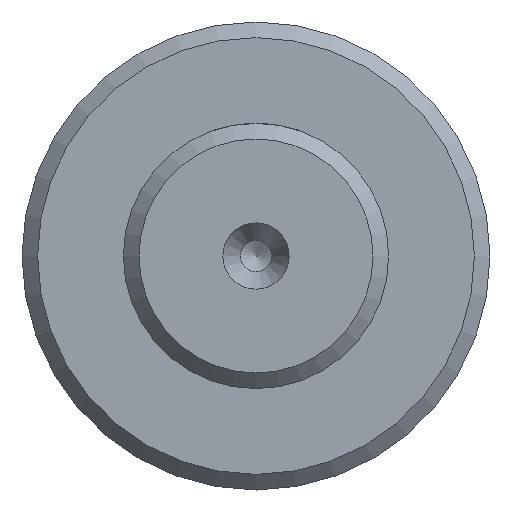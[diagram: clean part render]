
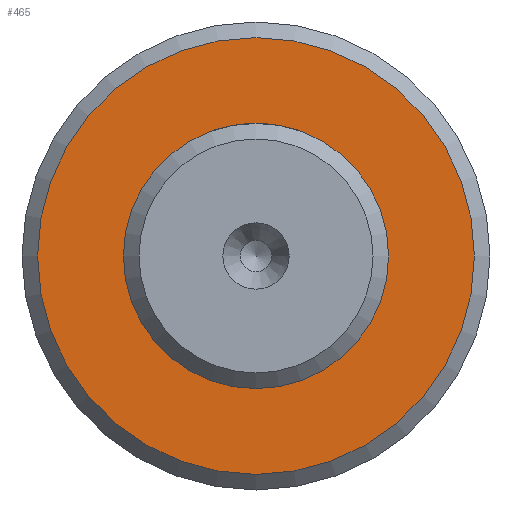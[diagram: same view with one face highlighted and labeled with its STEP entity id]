
A CAD part, left-side view. The second image highlights one B-rep face of the part: STEP entity #465.
In plain terms, the highlighted planar face has unit normal (-1, 0, 0).
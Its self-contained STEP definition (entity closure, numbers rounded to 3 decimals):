
#17=FACE_BOUND('',#91,.T.);
#40=PLANE('',#532);
#60=FACE_OUTER_BOUND('',#90,.T.);
#90=EDGE_LOOP('',(#397));
#91=EDGE_LOOP('',(#398));
#118=CIRCLE('',#531,14.);
#119=CIRCLE('',#533,8.5);
#229=VERTEX_POINT('',#869);
#230=VERTEX_POINT('',#873);
#288=EDGE_CURVE('',#229,#229,#118,.T.);
#290=EDGE_CURVE('',#230,#230,#119,.T.);
#397=ORIENTED_EDGE('',*,*,#288,.F.);
#398=ORIENTED_EDGE('',*,*,#290,.F.);
#465=ADVANCED_FACE('',(#60,#17),#40,.T.);
#531=AXIS2_PLACEMENT_3D('',#870,#639,#640);
#532=AXIS2_PLACEMENT_3D('',#872,#642,#643);
#533=AXIS2_PLACEMENT_3D('',#874,#644,#645);
#639=DIRECTION('center_axis',(1.,0.,0.));
#640=DIRECTION('ref_axis',(0.,1.,0.));
#642=DIRECTION('center_axis',(-1.,0.,0.));
#643=DIRECTION('ref_axis',(0.,0.,1.));
#644=DIRECTION('center_axis',(-1.,0.,0.));
#645=DIRECTION('ref_axis',(0.,-1.,0.));
#869=CARTESIAN_POINT('',(32.497,-71.5,0.));
#870=CARTESIAN_POINT('Origin',(32.497,-57.5,0.));
#872=CARTESIAN_POINT('Origin',(32.497,-69.25,0.));
#873=CARTESIAN_POINT('',(32.497,-49.,0.));
#874=CARTESIAN_POINT('Origin',(32.497,-57.5,0.));
